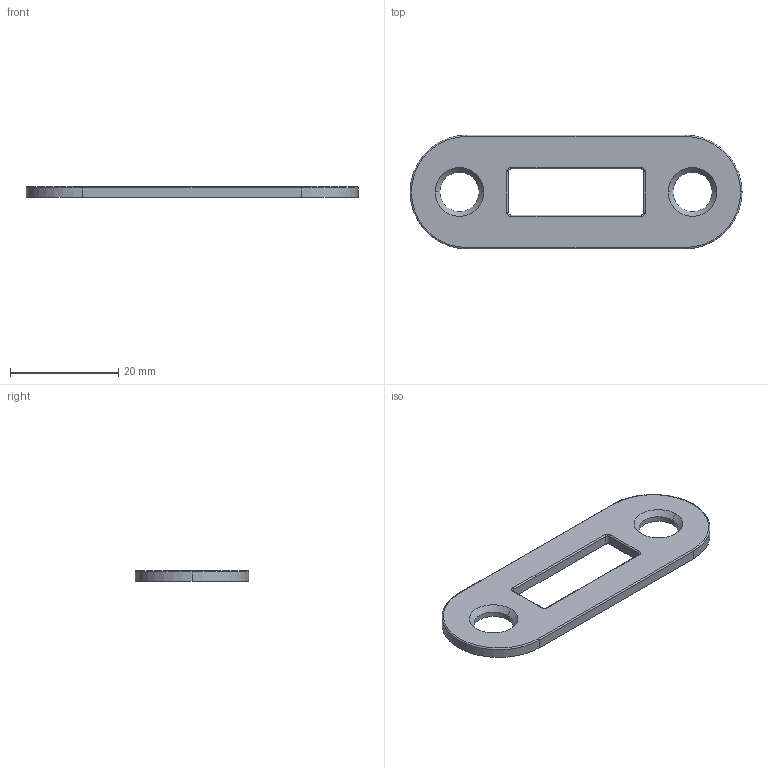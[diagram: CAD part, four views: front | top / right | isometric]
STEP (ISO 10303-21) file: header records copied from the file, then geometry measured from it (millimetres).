
FILE_DESCRIPTION (( 'STEP AP214' ), '1' );
FILE_NAME ('TPL-W-031 single plate 04June2025.STEP', '2025-06-04T01:17:20', ( '' ), ( '' ), 'SwSTEP 2.0', 'SolidWorks 2023', '' );
FILE_SCHEMA (( 'AUTOMOTIVE_DESIGN' ));
Length unit declared in the file: millimetre
Products named in the file (1): TPL-W-031 single plate 04June2025
Bounding box: 61.25 x 21 x 2 mm (x, y, z)
Volume: 1769.2 mm3; surface area: 2264.7 mm2
Topology: 1 solids, 1 shells, 36 faces, 86 edges, 52 vertices
Faces by surface type: cylinder 17, plane 8, torus 7, cone 4
Entity records: 1084 total; most frequent: DIRECTION 207, CARTESIAN_POINT 175, ORIENTED_EDGE 172, EDGE_CURVE 86, AXIS2_PLACEMENT_3D 84, VERTEX_POINT 52, CIRCLE 47, EDGE_LOOP 42
